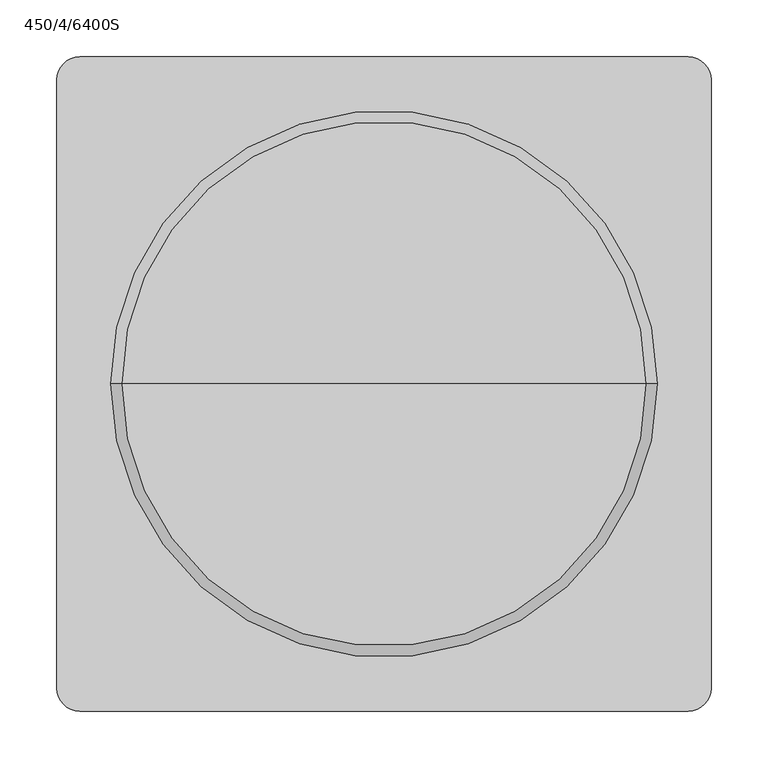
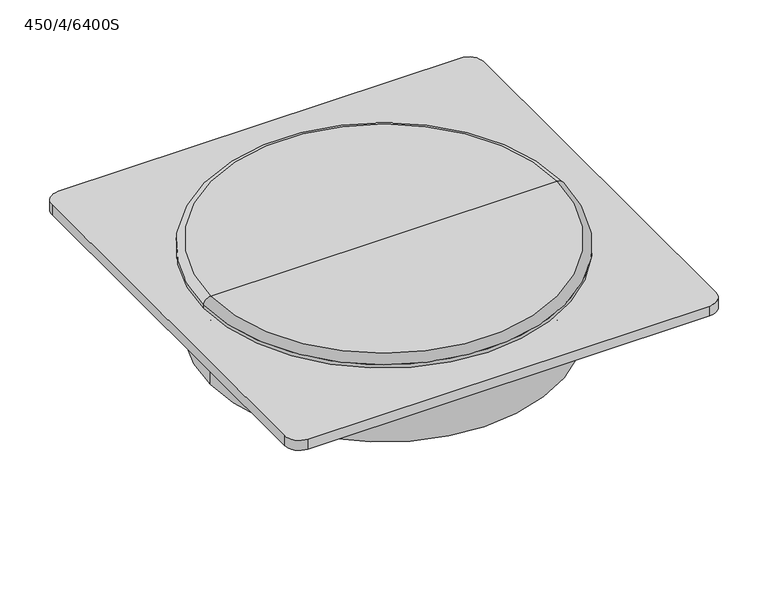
"""IFC4 building model written with IfcOpenShell, lengths in millimetres: unitary equipment geometry, VE-Wentylator-ParaForma-Harmann-WAF-Wywiewny : 450/4/6400S."""

from ifc_helpers import new_model, si_unit, point, frame, frame_2d, origin, origin_with_axes, origin_2d, place, context, project, spatial, polyline, circle_curve, ellipse_curve, trimmed, segment, composite_curve, outline, extrude, source, transform, mapped, element, save
from ifc_brep_helpers import plane_surface, cylinder_surface, revolved_surface, advanced_brep


def unitary_equipment_450_4_6400s_c681895a(model_context):
    return source(origin(), model_context, "Body", "SolidModel", [
        advanced_brep(
        [(240.0, 0.0, 14.0), (-240.0, 0.0, 14.0), (0.0, 0.0, 14.0), (240.0, 0.0, 18.6666667), (-240.0, 0.0, 18.6666667), (230.6666667, 0.0, 28.0), (-230.6666667, 0.0, 28.0), (0.0, 0.0, 28.0)],
        [
            (0, 1, circle_curve(frame((0.0, 0.0, 14.0), z_axis=(0.0, 0.0, -1.0), x_axis=(-1.0000000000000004, 0.0, 0.0)), 240.0)),
            (1, 2),
            (2, 0),
            (1, 0, circle_curve(frame((0.0, 0.0, 14.0), z_axis=(0.0, 0.0, -1.0), x_axis=(-1.0000000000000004, 0.0, 0.0)), 240.0)),
            (3, 4, circle_curve(frame((0.0, 0.0, 18.6666667), z_axis=(0.0, 0.0, -1.0), x_axis=(-1.0000000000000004, 0.0, 0.0)), 240.0)),
            (4, 1),
            (0, 3),
            (4, 3, circle_curve(frame((0.0, 0.0, 18.6666667), z_axis=(0.0, 0.0, -1.0), x_axis=(-1.0000000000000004, 0.0, 0.0)), 240.0)),
            (5, 6, circle_curve(frame((0.0, 0.0, 28.0), z_axis=(0.0, 0.0, -1.0), x_axis=(-1.0000000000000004, 0.0, 0.0)), 230.6666667)),
            (6, 4, circle_curve(frame((-230.6666667, 0.0, 18.6666667), z_axis=(0.0, -1.0000000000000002, 0.0), x_axis=(0.0, 0.0, -1.0000000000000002)), 9.3333333)),
            (3, 5, circle_curve(frame((230.6666667, 0.0, 18.6666667), z_axis=(0.0, -1.0000000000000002, 0.0), x_axis=(0.0, 0.0, -1.0000000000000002)), 9.3333333)),
            (6, 5, circle_curve(frame((0.0, 0.0, 28.0), z_axis=(0.0, 0.0, -1.0), x_axis=(-1.0000000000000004, 0.0, 0.0)), 230.6666667)),
            (7, 6),
            (5, 7),
        ],
        [
            plane_surface(frame((0.0, 0.0, 14.0), z_axis=(0.0, 0.0, -1.0), x_axis=(-1.0, 0.0, 0.0))),
            cylinder_surface(frame((0.0, 0.0, 28.0), z_axis=(0.0, 0.0, 1.0000000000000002), x_axis=(-1.0000000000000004, 0.0, 0.0)), 240.0),
            revolved_surface(trimmed(ellipse_curve(frame((-230.6666667, 0.0, 18.6666667), z_axis=(0.0, 1.0000000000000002, 0.0), x_axis=(0.0, 0.0, -1.0000000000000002)), 9.3333333, 9.3333333), [point((-240.0, 0.0, 18.6666667))], [point((-230.6666667, 0.0, 28.0))], True, "CARTESIAN"), (0.0, 0.0, 28.0), (0.0, 0.0, 1.0000000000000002)),
            plane_surface(frame((0.0, 0.0, 28.0), z_axis=(0.0, 0.0, 1.0), x_axis=(-1.0, 0.0, 0.0))),
        ],
        [
            (0, [[1, 2, 3]]),
            (0, [[4, -3, -2]]),
            (1, [[5, 6, -1, 7]]),
            (1, [[8, -7, -4, -6]]),
            (2, [[9, 10, -5, 11]]),
            (2, [[12, -11, -8, -10]]),
            (3, [[13, -9, 14]]),
            (3, [[-14, -12, -13]]),
        ],
    ),
        extrude(outline(composite_curve([segment(trimmed(circle_curve(origin_2d(), 72.0), [point((72.0, 0.0))], [point((-72.0, 0.0))], False, "CARTESIAN"), True, "CONTINUOUS"), segment(trimmed(circle_curve(origin_2d(), 72.0), [point((-72.0, 0.0))], [point((72.0, 0.0))], False, "CARTESIAN"), True, "CONTINUOUS")], self_intersect=False)), frame((0.0, 0.0, -158.0), z_axis=(0.0, 0.0, 1.0), x_axis=(1.0, 0.0, 0.0)), (0.0, 0.0, 1.0), 62.0),
        advanced_brep(
        [(0.0, 0.0, 0.0), (-240.0, 0.0, 0.0), (240.0, 0.0, 0.0), (231.5, 0.0, -96.0), (-231.5, 0.0, -96.0), (0.0, 0.0, -96.0), (231.5, 0.0, -8.5), (-231.5, 0.0, -8.5)],
        [
            (0, 1),
            (1, 2, circle_curve(frame((0.0, 0.0, 0.0), z_axis=(0.0, 0.0, 1.0), x_axis=(-1.0000000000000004, 0.0, 0.0)), 240.0)),
            (2, 0),
            (2, 1, circle_curve(frame((0.0, 0.0, 0.0), z_axis=(0.0, 0.0, 1.0), x_axis=(-1.0000000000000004, 0.0, 0.0)), 240.0)),
            (3, 4, circle_curve(frame((0.0, 0.0, -96.0), z_axis=(0.0, 0.0, -1.0), x_axis=(-1.0000000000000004, 0.0, 0.0)), 231.5)),
            (4, 5),
            (5, 3),
            (4, 3, circle_curve(frame((0.0, 0.0, -96.0), z_axis=(0.0, 0.0, -1.0), x_axis=(-1.0000000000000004, 0.0, 0.0)), 231.5)),
            (6, 7, circle_curve(frame((0.0, 0.0, -8.5), z_axis=(0.0, 0.0, -1.0), x_axis=(-1.0000000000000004, 0.0, 0.0)), 231.5)),
            (7, 4),
            (3, 6),
            (7, 6, circle_curve(frame((0.0, 0.0, -8.5), z_axis=(0.0, 0.0, -1.0), x_axis=(-1.0000000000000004, 0.0, 0.0)), 231.5)),
            (1, 7, circle_curve(frame((-240.0, 0.0, -8.5), z_axis=(0.0, 1.0000000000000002, 0.0), x_axis=(0.0, 0.0, -1.0000000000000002)), 8.5)),
            (6, 2, circle_curve(frame((240.0, 0.0, -8.5), z_axis=(0.0, 1.0000000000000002, 0.0), x_axis=(0.0, 0.0, -1.0000000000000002)), 8.5)),
        ],
        [
            plane_surface(frame((0.0, 0.0, 0.0), z_axis=(0.0, 0.0, 1.0), x_axis=(-1.0, 0.0, 0.0))),
            plane_surface(frame((0.0, 0.0, -96.0), z_axis=(0.0, 0.0, -1.0), x_axis=(-1.0, 0.0, 0.0))),
            cylinder_surface(frame((0.0, 0.0, 0.0), z_axis=(0.0, 0.0, 1.0000000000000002), x_axis=(-1.0000000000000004, 0.0, 0.0)), 231.5),
            revolved_surface(trimmed(ellipse_curve(frame((-240.0, 0.0, -8.5), z_axis=(0.0, -1.0000000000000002, 0.0), x_axis=(0.0, 0.0, -1.0000000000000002)), 8.5, 8.5), [point((-231.5, 0.0, -8.5))], [point((-240.0, 0.0, 0.0))], True, "CARTESIAN"), (0.0, 0.0, 0.0), (0.0, 0.0, 1.0000000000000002)),
        ],
        [
            (0, [[1, 2, 3]]),
            (0, [[-3, 4, -1]]),
            (1, [[5, 6, 7]]),
            (1, [[8, -7, -6]]),
            (2, [[9, 10, -5, 11]]),
            (2, [[12, -11, -8, -10]]),
            (3, [[-2, 13, -9, 14]]),
            (3, [[-4, -14, -12, -13]]),
        ],
    ),
        extrude(outline(composite_curve([segment(polyline([(267.5, -287.5), (-267.5, -287.5)]), True, "CONTINUOUS"), segment(trimmed(circle_curve(frame_2d((-267.5, -267.5)), 20.0), [point((-267.5, -287.5))], [point((-287.5, -267.5))], False, "CARTESIAN"), True, "CONTINUOUS"), segment(polyline([(-287.5, -267.5), (-287.5, 267.5)]), True, "CONTINUOUS"), segment(trimmed(circle_curve(frame_2d((-267.5, 267.5)), 20.0), [point((-287.5, 267.5))], [point((-267.5, 287.5))], False, "CARTESIAN"), True, "CONTINUOUS"), segment(polyline([(-267.5, 287.5), (267.5, 287.5)]), True, "CONTINUOUS"), segment(trimmed(circle_curve(frame_2d((267.5, 267.5)), 20.0), [point((267.5, 287.5))], [point((287.5, 267.5))], False, "CARTESIAN"), True, "CONTINUOUS"), segment(polyline([(287.5, 267.5), (287.5, -267.5)]), True, "CONTINUOUS"), segment(trimmed(circle_curve(frame_2d((267.5, -267.5)), 20.0), [point((287.5, -267.5))], [point((267.5, -287.5))], False, "CARTESIAN"), True, "CONTINUOUS")], self_intersect=False)), origin_with_axes(), (0.0, 0.0, 1.0), 14.0),
    ])


if __name__ == "__main__":
    model = new_model("IFC4")
    model_context = context("Model", 3, world=origin())
    ifc_project = project(units=[si_unit("LENGTHUNIT", "METRE", prefix="MILLI")], contexts=[model_context])
    site = spatial("IfcSite", under=ifc_project)
    building = spatial("IfcBuilding", under=site)
    placement = place(None, origin())
    unitary_equipment_450_4_6400s_shape = unitary_equipment_450_4_6400s_c681895a(model_context)
    element("IfcUnitaryEquipment", 1, ObjectType="VE-Wentylator-ParaForma-Harmann-WAF-Wywiewny : 450/4/6400S", at=placement, inside=building, context=model_context, shape_type="MappedRepresentation", body=[
        mapped(unitary_equipment_450_4_6400s_shape, transform((0.0, 0.0, 0.0), x_axis=(1.0, 0.0, 0.0), y_axis=(0.0, 1.0, 0.0), z_axis=(0.0, 0.0, 1.0))),
    ])
    save(model, "model.ifc")
